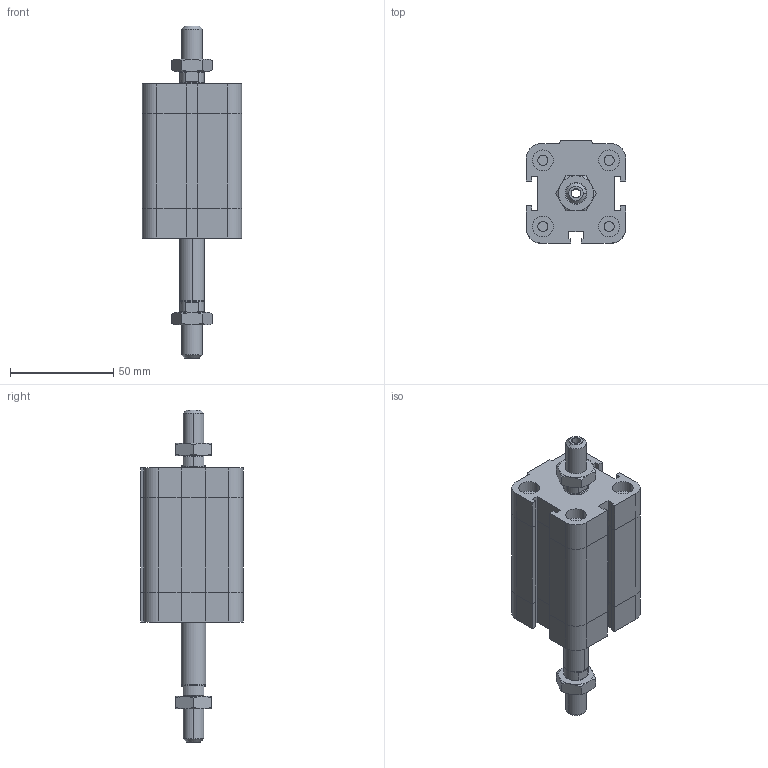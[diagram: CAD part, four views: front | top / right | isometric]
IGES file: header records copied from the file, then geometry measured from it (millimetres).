
Global section: file name: No Iges File Name specified; native system: Autodesk Inventor 2009; preprocessor: AutoDesk Inventor Iges Exporter R2009; author: maffial1; date: 20090420.142706; units: millimetre
Bounding box: 48 x 49.5 x 160.5 mm (x, y, z)
Volume: 157426.8 mm3; surface area: 37463.6 mm2
Topology: 4 solids, 4 shells, 262 faces, 580 edges, 346 vertices
Faces by surface type: plane 129, bspline 53, cone 38, cylinder 22, revolution 20
